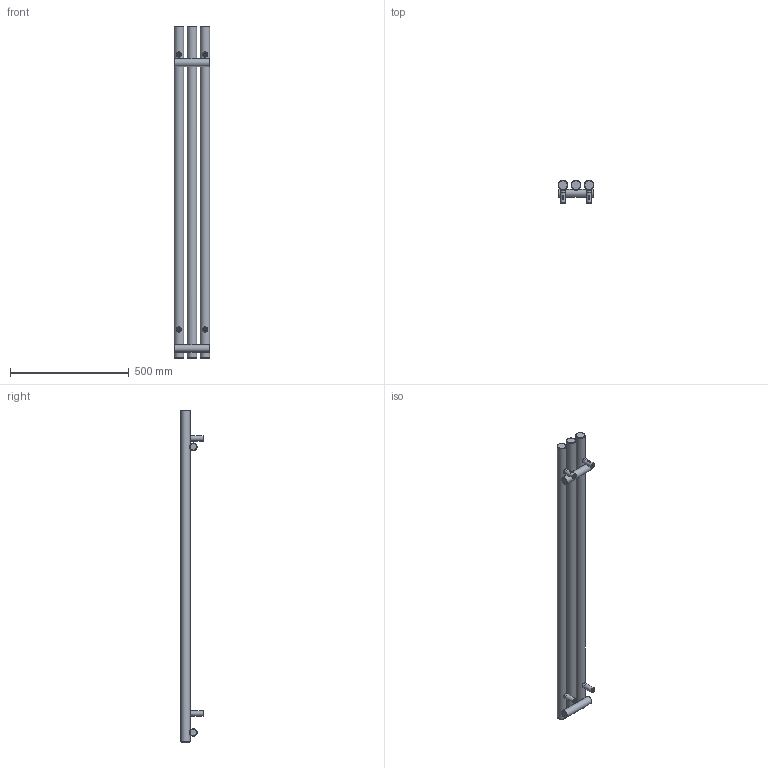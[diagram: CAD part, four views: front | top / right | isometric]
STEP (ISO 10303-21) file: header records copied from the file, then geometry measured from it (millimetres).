
FILE_DESCRIPTION(/* description */ (''),/* implementation_level */ '2;1');
FILE_NAME(/* name */ 'Z:\R\G\P\RGP116 - Grzejniki Geyser\Work\Inventor\Circolo (Rolo V, Rolo H)\ROLO-ROOM\Marketing\Bryły 3D\Zaokrąglone\WLROR140015-ES-CK-(Z).stp',/* time_stamp */ '2024-04-03T09:01:30+02:00',/* author */ ('NowAd'),/* organization */ (''),/* preprocessor_version */ 'ST-DEVELOPER v17.2',/* originating_system */ 'Autodesk Inventor 2019',/* authorisation */ '');
FILE_SCHEMA (('AUTOMOTIVE_DESIGN { 1 0 10303 214 3 1 1 }'));
Length unit declared in the file: millimetre
Products named in the file (3): WLROR140015-ES-CK-(Z); PGROR140015-ES-CK-(K); CK-V-fi40 marketing
Assembly tree (5 placements, depth 2):
  WLROR140015-ES-CK-(Z)
    PGROR140015-ES-CK-(K)
    CK-V-fi40 marketing  x4
Bounding box: 150 x 96.5 x 1400 mm (x, y, z)
Volume: 5561620.2 mm3; surface area: 597394.6 mm2
Topology: 5 solids, 5 shells, 303 faces, 769 edges, 514 vertices
Faces by surface type: plane 128, cylinder 71, cone 60, torus 38, bspline 6
Full cylindrical faces by diameter (mm): 4.134 x4, 4.48 x4, 6.4 x4, 10 x4, 12 x4, 15.834 x4, 16 x4, 18.631 x2, 22 x4, 32 x2, 40 x3
Entity records: 5199 total; most frequent: CARTESIAN_POINT 2269, DIRECTION 614, ORIENTED_EDGE 576, EDGE_CURVE 288, AXIS2_PLACEMENT_3D 271, VERTEX_POINT 196, EDGE_LOOP 150, CIRCLE 141
